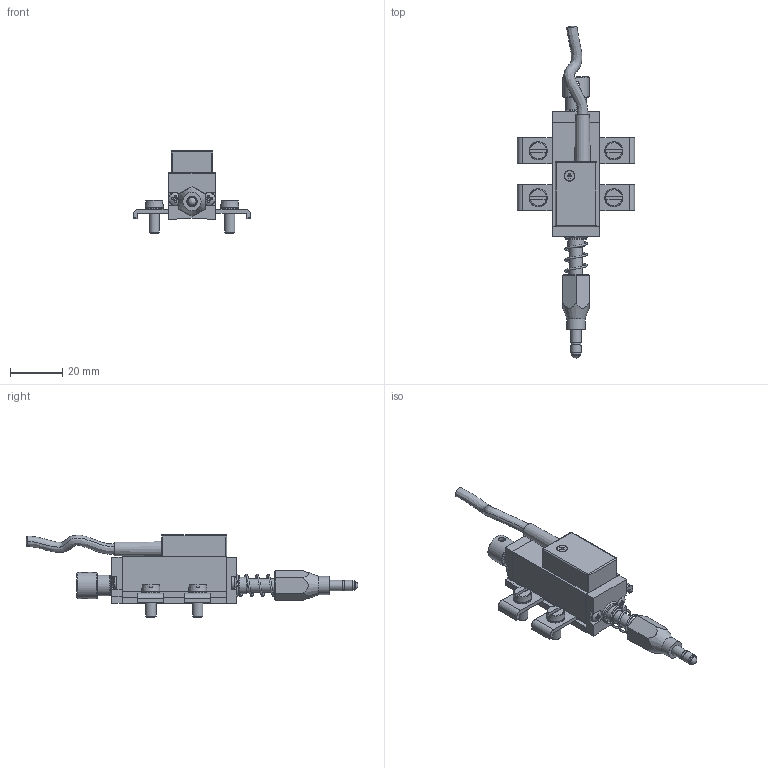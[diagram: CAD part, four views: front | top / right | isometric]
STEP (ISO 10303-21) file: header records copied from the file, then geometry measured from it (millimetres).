
FILE_DESCRIPTION( ( 'Unknown' ), '1' );
FILE_NAME( 'P:/Fertigung_TTS/2_TTS/1_CAD-Daten/4_Handelsware/3_Linearpotentiometer/LRW2_LRW3/4_Step/LRW2-F-10-S.stp', 'Unknown', ( 'WayCon' ), ( 'WayCon Positionsmesstechnik' ), 'PSStep 17.0.49', 'Unknown', ' ' );
FILE_SCHEMA( ( 'AUTOMOTIVE_DESIGN { 1 0 10303 214 1 1 1 1 }' ) );
Length unit declared in the file: millimetre
Products named in the file (31): MIM600X; MIM892X_ISO 1207 - M4 x 10 --- 10S; CUS046X; TES053X; BUS015X; TES045X; PRE040X; ALB061X; PUN001X; BUS022X; Molla PY compressa MIM401X_Posizione Lavoro; TAS000X_Assemblato; MIM797X_ISO 7046-1 - M2 x 10 - Z --- 10S; MIM828X_ISO 7045 - M2.5 x 8 - Z --- 8S; STA029X; MIM510X_DIN 6905-3.6-FSt; PAS000X; PMI-SLIM cavoX
Bounding box: 45 x 127.37 x 31.7 mm (x, y, z)
Volume: 853.1 mm3; surface area: 14110.2 mm2
Topology: 5 solids, 380 shells, 428 faces, 1961 edges, 1863 vertices
Faces by surface type: plane 269, cylinder 78, cone 49, torus 20, sphere 9, bspline 3
Full cylindrical faces by diameter (mm): 2.5 x2, 3.2 x1, 3.8 x3, 4 x10, 4.2 x1, 4.3 x4, 5 x5, 5.1 x2, 6.3 x2, 7 x2, 7.8 x2, 8 x1, 8.5 x1, 10 x1
Entity records: 25367 total; most frequent: CARTESIAN_POINT 6866, DIRECTION 3261, ORIENTED_EDGE 1934, EDGE_CURVE 1842, VERTEX_POINT 1825, AXIS2_PLACEMENT_3D 1165, LINE 931, VECTOR 931
